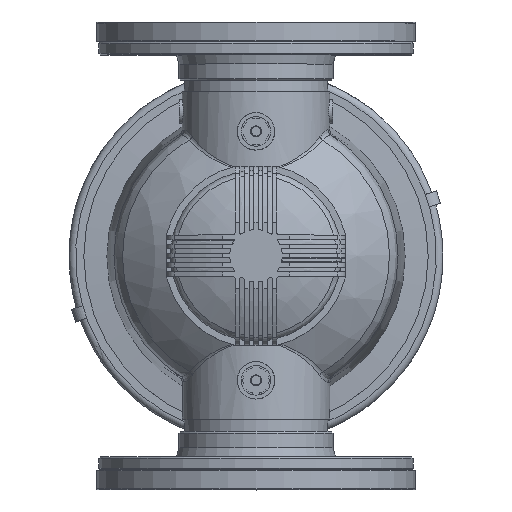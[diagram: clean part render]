
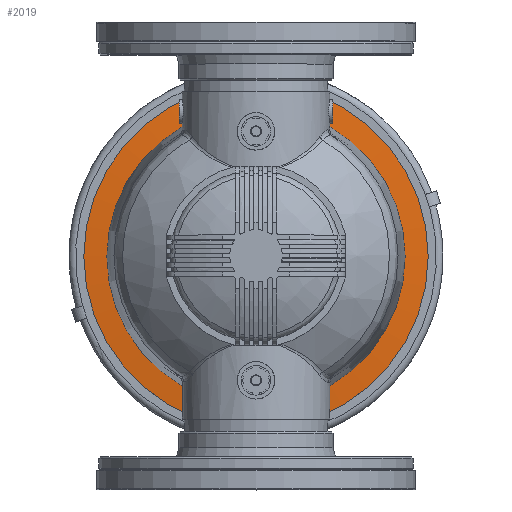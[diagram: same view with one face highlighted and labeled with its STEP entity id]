
A CAD part, top view. The second image highlights one B-rep face of the part: STEP entity #2019.
In plain terms, the highlighted conical face has half-angle 85 degrees and reference radius 105.704 mm.
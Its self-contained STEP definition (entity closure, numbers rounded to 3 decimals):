
#2019 = ADVANCED_FACE( 'Face124', ( #4703, #4704 ), #4705, .T. );
#4703 = FACE_OUTER_BOUND( '', #11714, .T. );
#4704 = FACE_BOUND( '', #11715, .T. );
#4705 = CONICAL_SURFACE( '', #11716, 105.704, 1.484 );
#11714 = EDGE_LOOP( '', ( #21143 ) );
#11715 = EDGE_LOOP( '', ( #21144 ) );
#11716 = AXIS2_PLACEMENT_3D( '', #21145, #21146, #21147 );
#21143 = ORIENTED_EDGE( '', *, *, #28612, .T. );
#21144 = ORIENTED_EDGE( '', *, *, #28613, .F. );
#21145 = CARTESIAN_POINT( '', ( 0., 0., 58.438 ) );
#21146 = DIRECTION( '', ( 0., 0., -1. ) );
#21147 = DIRECTION( '', ( -1., 0., 0. ) );
#28612 = EDGE_CURVE( 'Edge318', #33628, #33628, #33629, .F. );
#28613 = EDGE_CURVE( 'Edge322', #33630, #33630, #33631, .F. );
#33628 = VERTEX_POINT( '', #45121 );
#33629 = CIRCLE( '', #45122, 105. );
#33630 = VERTEX_POINT( '', #45123 );
#33631 = CIRCLE( '', #45124, 90.914 );
#45121 = CARTESIAN_POINT( '', ( 0., -105., 58.5 ) );
#45122 = AXIS2_PLACEMENT_3D( '', #52015, #52016, #52017 );
#45123 = CARTESIAN_POINT( '', ( 0., -90.914, 59.732 ) );
#45124 = AXIS2_PLACEMENT_3D( '', #52018, #52019, #52020 );
#52015 = CARTESIAN_POINT( '', ( 0., 0., 58.5 ) );
#52016 = DIRECTION( '', ( 0., 0., -1. ) );
#52017 = DIRECTION( '', ( 0., -1., 0. ) );
#52018 = CARTESIAN_POINT( '', ( 0., 0., 59.732 ) );
#52019 = DIRECTION( '', ( 0., 0., -1. ) );
#52020 = DIRECTION( '', ( 0., -1., 0. ) );
